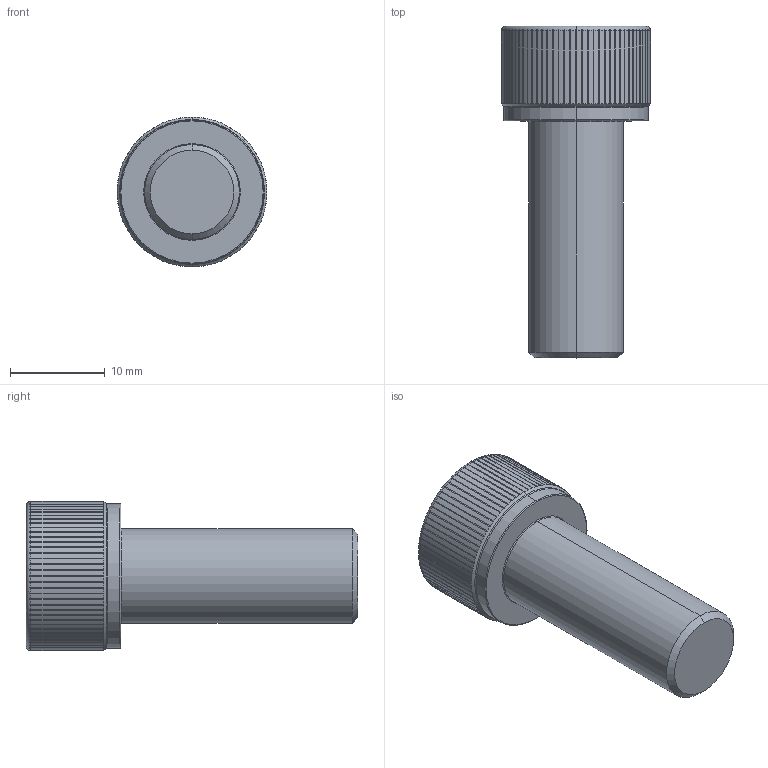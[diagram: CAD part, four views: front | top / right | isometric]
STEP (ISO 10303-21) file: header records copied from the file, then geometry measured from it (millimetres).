
FILE_DESCRIPTION (( 'STEP AP203' ), '1' );
FILE_NAME ('LGDT-304-M10x25.STEP', '2026-08-10T07:17:12', ( '' ), ( '' ), 'SwSTEP 2.0', 'SolidWorks 2020', '' );
FILE_SCHEMA (( 'CONFIG_CONTROL_DESIGN' ));
Length unit declared in the file: millimetre
Products named in the file (1): LGDT-304-M10x25
Bounding box: 15.8 x 35 x 15.8 mm (x, y, z)
Volume: 3558.6 mm3; surface area: 1802.5 mm2
Topology: 1 solids, 1 shells, 204 faces, 576 edges, 376 vertices
Faces by surface type: cylinder 175, cone 11, plane 10, torus 8
Entity records: 8367 total; most frequent: CARTESIAN_POINT 3208, ORIENTED_EDGE 1152, DIRECTION 988, EDGE_CURVE 576, AXIS2_PLACEMENT_3D 398, VERTEX_POINT 376, EDGE_LOOP 206, ADVANCED_FACE 204
